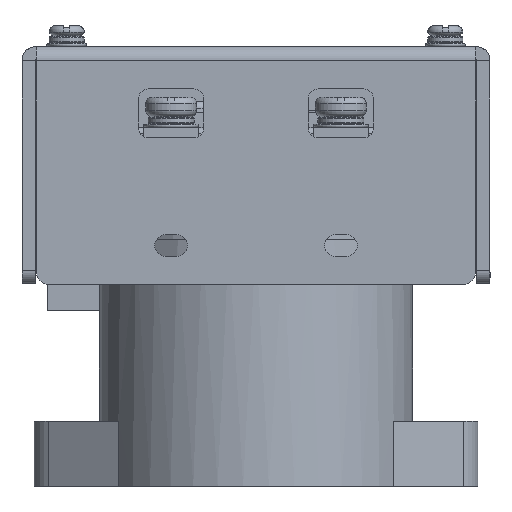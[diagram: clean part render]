
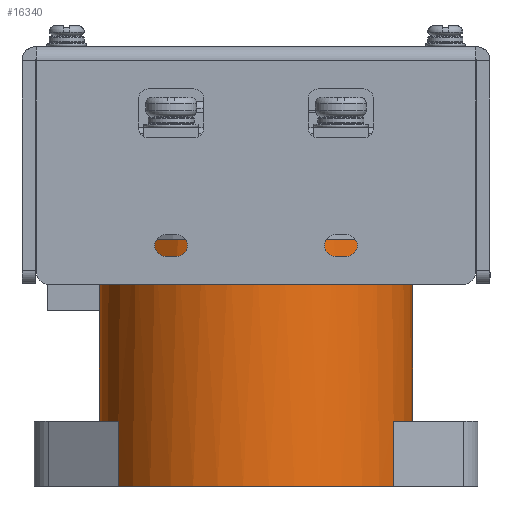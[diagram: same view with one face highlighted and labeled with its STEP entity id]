
A CAD part, front view. The second image highlights one B-rep face of the part: STEP entity #16340.
In plain terms, the highlighted cylindrical face has radius 24 mm (diameter 48 mm), a full revolution.
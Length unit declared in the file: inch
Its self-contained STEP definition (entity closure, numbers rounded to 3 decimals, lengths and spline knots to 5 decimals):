
#2249=LINE('',#29309,#3598);
#2250=LINE('',#29310,#3599);
#2251=LINE('',#29312,#3600);
#2252=LINE('',#29315,#3601);
#2253=LINE('',#29316,#3602);
#3598=VECTOR('',#22616,0.94488);
#3599=VECTOR('',#22617,0.3937);
#3600=VECTOR('',#22618,0.3937);
#3601=VECTOR('',#22621,0.3937);
#3602=VECTOR('',#22622,0.3937);
#3845=CYLINDRICAL_SURFACE('',#17998,0.94488);
#4700=FACE_OUTER_BOUND('',#5710,.T.);
#5710=EDGE_LOOP('',(#14928,#14929,#14930,#14931,#14932,#14933,#14934,#14935,
#14936,#14937,#14938,#14939));
#6496=CIRCLE('',#17980,0.94488);
#6497=CIRCLE('',#17984,0.94488);
#6498=CIRCLE('',#17985,0.94488);
#6502=CIRCLE('',#17990,0.94488);
#6504=CIRCLE('',#17992,0.94488);
#6508=CIRCLE('',#17999,0.94488);
#8043=VERTEX_POINT('',#29263);
#8044=VERTEX_POINT('',#29269);
#8045=VERTEX_POINT('',#29270);
#8046=VERTEX_POINT('',#29272);
#8051=VERTEX_POINT('',#29283);
#8053=VERTEX_POINT('',#29287);
#8054=VERTEX_POINT('',#29289);
#8057=VERTEX_POINT('',#29295);
#8061=VERTEX_POINT('',#29311);
#8062=VERTEX_POINT('',#29313);
#10339=EDGE_CURVE('',#8043,#8043,#6496,.T.);
#10341=EDGE_CURVE('',#8044,#8045,#6497,.T.);
#10342=EDGE_CURVE('',#8045,#8046,#6498,.T.);
#10350=EDGE_CURVE('',#8054,#8053,#6502,.T.);
#10354=EDGE_CURVE('',#8051,#8057,#6504,.T.);
#10360=EDGE_CURVE('',#8043,#8045,#2249,.T.);
#10361=EDGE_CURVE('',#8054,#8044,#2250,.T.);
#10362=EDGE_CURVE('',#8053,#8061,#2251,.T.);
#10363=EDGE_CURVE('',#8062,#8061,#6508,.T.);
#10364=EDGE_CURVE('',#8051,#8062,#2252,.T.);
#10365=EDGE_CURVE('',#8057,#8046,#2253,.T.);
#14928=ORIENTED_EDGE('',*,*,#10339,.T.);
#14929=ORIENTED_EDGE('',*,*,#10360,.T.);
#14930=ORIENTED_EDGE('',*,*,#10341,.F.);
#14931=ORIENTED_EDGE('',*,*,#10361,.F.);
#14932=ORIENTED_EDGE('',*,*,#10350,.T.);
#14933=ORIENTED_EDGE('',*,*,#10362,.T.);
#14934=ORIENTED_EDGE('',*,*,#10363,.F.);
#14935=ORIENTED_EDGE('',*,*,#10364,.F.);
#14936=ORIENTED_EDGE('',*,*,#10354,.T.);
#14937=ORIENTED_EDGE('',*,*,#10365,.T.);
#14938=ORIENTED_EDGE('',*,*,#10342,.F.);
#14939=ORIENTED_EDGE('',*,*,#10360,.F.);
#16340=ADVANCED_FACE('',(#4700),#3845,.T.);
#17980=AXIS2_PLACEMENT_3D('',#29264,#22569,#22570);
#17984=AXIS2_PLACEMENT_3D('',#29271,#22578,#22579);
#17985=AXIS2_PLACEMENT_3D('',#29273,#22580,#22581);
#17990=AXIS2_PLACEMENT_3D('',#29290,#22594,#22595);
#17992=AXIS2_PLACEMENT_3D('',#29297,#22600,#22601);
#17998=AXIS2_PLACEMENT_3D('',#29308,#22614,#22615);
#17999=AXIS2_PLACEMENT_3D('',#29314,#22619,#22620);
#22569=DIRECTION('center_axis',(0.,0.,-1.));
#22570=DIRECTION('ref_axis',(1.,0.,0.));
#22578=DIRECTION('center_axis',(0.,0.,-1.));
#22579=DIRECTION('ref_axis',(1.,0.,0.));
#22580=DIRECTION('center_axis',(0.,0.,-1.));
#22581=DIRECTION('ref_axis',(1.,0.,0.));
#22594=DIRECTION('center_axis',(0.,0.,1.));
#22595=DIRECTION('ref_axis',(1.,0.,0.));
#22600=DIRECTION('center_axis',(0.,0.,1.));
#22601=DIRECTION('ref_axis',(1.,0.,0.));
#22614=DIRECTION('center_axis',(0.,0.,1.));
#22615=DIRECTION('ref_axis',(1.,0.,0.));
#22616=DIRECTION('',(0.,0.,-1.));
#22617=DIRECTION('',(0.,0.,1.));
#22618=DIRECTION('',(0.,0.,1.));
#22619=DIRECTION('center_axis',(0.,0.,-1.));
#22620=DIRECTION('ref_axis',(1.,0.,0.));
#22621=DIRECTION('',(0.,0.,1.));
#22622=DIRECTION('',(0.,0.,1.));
#29263=CARTESIAN_POINT('',(-0.94488,0.,1.48819));
#29264=CARTESIAN_POINT('Origin',(0.,0.,1.48819));
#29269=CARTESIAN_POINT('',(-0.82983,-0.45186,0.3937));
#29270=CARTESIAN_POINT('',(-0.94488,0.,0.3937));
#29271=CARTESIAN_POINT('Origin',(0.,0.,0.3937));
#29272=CARTESIAN_POINT('',(-0.81829,0.47244,0.3937));
#29273=CARTESIAN_POINT('Origin',(0.,0.,0.3937));
#29283=CARTESIAN_POINT('',(0.81829,0.47244,0.));
#29287=CARTESIAN_POINT('',(0.82983,-0.45186,0.));
#29289=CARTESIAN_POINT('',(-0.82983,-0.45186,0.));
#29290=CARTESIAN_POINT('Origin',(0.,0.,0.));
#29295=CARTESIAN_POINT('',(-0.81829,0.47244,0.));
#29297=CARTESIAN_POINT('Origin',(0.,0.,0.));
#29308=CARTESIAN_POINT('Origin',(0.,0.,0.));
#29309=CARTESIAN_POINT('',(-0.94488,0.,0.));
#29310=CARTESIAN_POINT('',(-0.82983,-0.45186,0.));
#29311=CARTESIAN_POINT('',(0.82983,-0.45186,0.3937));
#29312=CARTESIAN_POINT('',(0.82983,-0.45186,0.));
#29313=CARTESIAN_POINT('',(0.81829,0.47244,0.3937));
#29314=CARTESIAN_POINT('Origin',(0.,0.,0.3937));
#29315=CARTESIAN_POINT('',(0.81829,0.47244,0.));
#29316=CARTESIAN_POINT('',(-0.81829,0.47244,0.));
